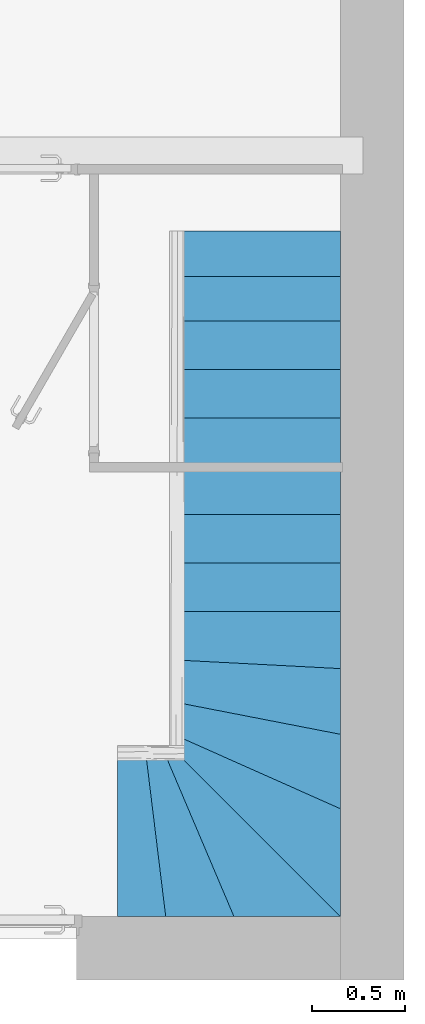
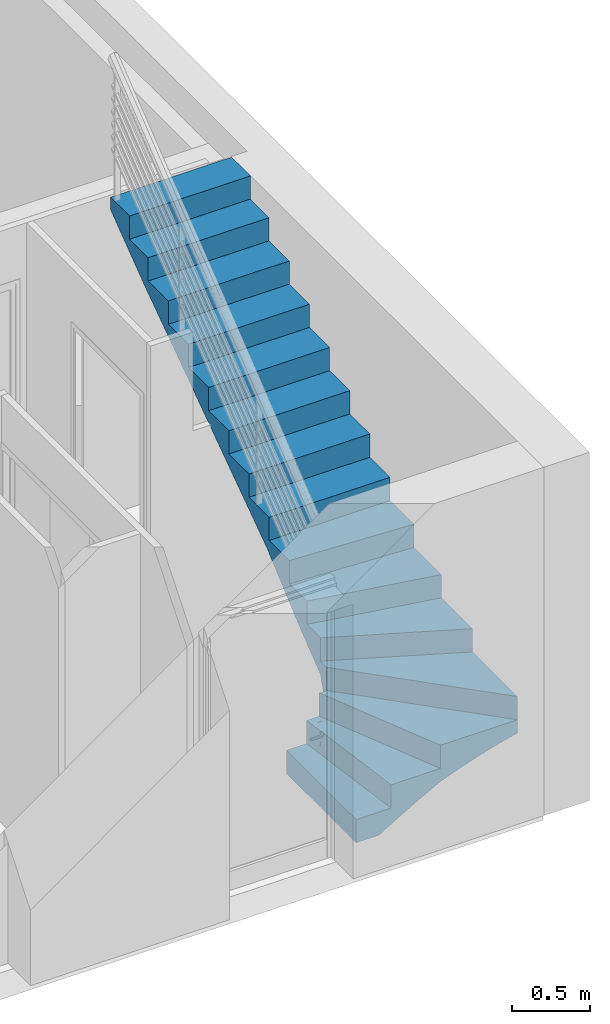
# One storey, part 4 of 13: 1 stair.
"""IFC2X3 building model written with IfcOpenShell, lengths in millimetres."""

import ifcopenshell
import ifcopenshell.guid

model = None  # the IFC model being written
_history = None  # IfcOwnerHistory: only IFC2X3 demands one
_inside = {}  # id of a spatial element -> (the spatial element, [elements in it])
_under = {}  # id of a project, library or spatial element -> (it, [spatial elements below it])
_declared = {}  # id of a project -> (the project, [libraries it declares])
_typed = {}  # id of a type object -> (the type object, [elements of that type])
_made_of = {}  # id of a material, layer set ... -> (it, [elements and type objects made of it])


def new_model(schema):
    """Start an empty IFC model of exactly this schema.

    Asked for "IFC4X3", IfcOpenShell would pick the latest addendum, in which some entities
    have other attributes; the version numbers below select the first issue.
    IFC2X3 requires an IfcOwnerHistory on every rooted entity: one is made here for all.
    """
    global model, _history
    if schema == "IFC4X3":
        model = ifcopenshell.file(schema_version=(4, 3, 0, 0))
    else:
        model = ifcopenshell.file(schema=schema)
    _inside.clear()
    _under.clear()
    _declared.clear()
    _typed.clear()
    _made_of.clear()
    _history = None
    if model.schema == "IFC2X3":
        org = make("IfcOrganization", Name="unknown")
        user = make(
            "IfcPersonAndOrganization",
            ThePerson=make("IfcPerson", FamilyName="unknown"),
            TheOrganization=org,
        )
        app = make(
            "IfcApplication",
            ApplicationDeveloper=org,
            Version="unknown",
            ApplicationFullName="unknown",
            ApplicationIdentifier="unknown",
        )
        _history = make(
            "IfcOwnerHistory",
            OwningUser=user,
            OwningApplication=app,
            ChangeAction="ADDED",
            CreationDate=0,
        )
    return model


def make(cls, **values):
    """One entity of the class cls with the attributes given. An attribute that is None is left unset."""
    return model.create_entity(
        cls, **{name: value for name, value in values.items() if value is not None}
    )


def entity(cls, *values):
    """Any entity or typed value of the class cls, its attributes in the order of the schema. None: left unset."""
    e = model.create_entity(cls)
    for i, value in enumerate(values):
        if value is not None:
            e[i] = value
    return e


def rooted(cls, **values):
    """An entity with a GlobalId (a new one), such as an element, a storey or a relation."""
    return make(cls, GlobalId=ifcopenshell.guid.new(), OwnerHistory=_history, **values)


def si_unit(unit_type, name, prefix=None):
    """IfcSIUnit, for example si_unit("LENGTHUNIT", "METRE", prefix="MILLI")."""
    return make("IfcSIUnit", UnitType=unit_type, Prefix=prefix, Name=name)


def converted_unit(unit_type, name, factor, base, dimensions=None, offset=None):
    """IfcConversionBasedUnit, such as the inch: factor (a typed value) times the base unit."""
    return make(
        "IfcConversionBasedUnit"
        if offset is None
        else "IfcConversionBasedUnitWithOffset",
        ConversionOffset=offset,
        Dimensions=None
        if dimensions is None
        else entity("IfcDimensionalExponents", *dimensions),
        UnitType=unit_type,
        Name=name,
        ConversionFactor=make(
            "IfcMeasureWithUnit", ValueComponent=factor, UnitComponent=base
        ),
    )


def assignment(units):
    """IfcUnitAssignment: the units of a project."""
    return None if units is None else make("IfcUnitAssignment", Units=units)


def point(xyz):
    """IfcCartesianPoint."""
    return None if xyz is None else make("IfcCartesianPoint", Coordinates=xyz)


def direction(xyz):
    """IfcDirection."""
    return None if xyz is None else make("IfcDirection", DirectionRatios=xyz)


def frame(location, z_axis=None, x_axis=None):
    """IfcAxis2Placement3D, a coordinate frame: its origin and axes. An axis left out is left unset."""
    return make(
        "IfcAxis2Placement3D",
        Location=point(location),
        Axis=direction(z_axis),
        RefDirection=direction(x_axis),
    )


def origin():
    """The frame at (0, 0, 0) with its axes left unset."""
    return frame((0.0, 0.0, 0.0))


def origin_with_axes():
    """The frame at (0, 0, 0) with the z axis (0, 0, 1) and the x axis (1, 0, 0) written out."""
    return frame((0.0, 0.0, 0.0), z_axis=(0.0, 0.0, 1.0), x_axis=(1.0, 0.0, 0.0))


def place(relative_to, where):
    """IfcLocalPlacement: puts the frame where relative to a parent placement (None: the world)."""
    return make(
        "IfcLocalPlacement", PlacementRelTo=relative_to, RelativePlacement=where
    )


def context(
    kind, dimensions, precision=None, world=None, true_north=None, identifier=None
):
    """IfcGeometricRepresentationContext, for example the 3D "Model" context."""
    return make(
        "IfcGeometricRepresentationContext",
        ContextIdentifier=identifier,
        ContextType=kind,
        CoordinateSpaceDimension=dimensions,
        Precision=precision,
        WorldCoordinateSystem=world,
        TrueNorth=true_north,
    )


def project(units=None, contexts=None):
    """IfcProject with its units and contexts."""
    return rooted(
        "IfcProject",
        Name="project",
        RepresentationContexts=contexts,
        UnitsInContext=assignment(units),
    )


def spatial(cls, under=None, at=None, **own):
    """A site, building, storey or space (cls), placed at a placement, below another one or the project."""
    s = rooted(cls, ObjectPlacement=at, **own)
    if under is not None:
        _under.setdefault(under.id(), (under, []))[1].append(s)
    return s


def faces_of(points, faces, orient=None, outer=None):
    """IfcFace entities. A face is a list of loops; a loop is a list of indices into points, from 0.

    orient and outer hold one flag for each loop. By default every Orientation is true, the
    first loop of a face is its IfcFaceOuterBound and the others are IfcFaceBound.
    """
    made = []
    for i, loops in enumerate(faces):
        bounds = []
        for j, loop in enumerate(loops):
            is_outer = j == 0 if outer is None else outer[i][j]
            bounds.append(
                make(
                    "IfcFaceOuterBound" if is_outer else "IfcFaceBound",
                    Bound=make("IfcPolyLoop", Polygon=[points[k] for k in loop]),
                    Orientation=True if orient is None else orient[i][j],
                )
            )
        made.append(make("IfcFace", Bounds=bounds))
    return made


def faceted_brep(points, faces, orient=None, outer=None, voids=None):
    """IfcFacetedBrep: a solid bounded by flat faces; with voids (closed shells), ...WithVoids."""
    shared = [point(p) for p in points]
    hull = make("IfcClosedShell", CfsFaces=faces_of(shared, faces, orient, outer))
    if voids is None:
        return make("IfcFacetedBrep", Outer=hull)
    return make(
        "IfcFacetedBrepWithVoids",
        Outer=hull,
        Voids=[
            make(cls, CfsFaces=faces_of(shared, fs, o, b)) for cls, fs, o, b in voids
        ],
    )


def shape(context_of_items, identifier, shape_type, items):
    """IfcShapeRepresentation: the items that make up one representation, for example the "Body"."""
    return make(
        "IfcShapeRepresentation",
        ContextOfItems=context_of_items,
        RepresentationIdentifier=identifier,
        RepresentationType=shape_type,
        Items=items,
    )


def made_of(thing, what):
    """Note that an element or type object is made of a material, layer set ...; save() writes the relation."""
    if what is not None:
        _made_of.setdefault(what.id(), (what, []))[1].append(thing)
    return thing


def element(
    cls,
    number,
    at=None,
    inside=None,
    cuts=None,
    type_object=None,
    material=None,
    context=None,
    identifier="Body",
    shape_type=None,
    held_by="IfcProductDefinitionShape",
    body=None,
    shapes=None,
    **own,
):
    """One element of the class cls, such as IfcWall. Its Tag is "e" and its number.

    at: its placement. inside: the storey or other place that contains it. cuts: it is an
    opening in that element (IfcRelVoidsElement). A single representation is given by context,
    identifier, shape_type and body (its items); several are given by shapes. held_by: the class
    of the entity that holds the representations. save() writes the other relations.
    """
    e = rooted(cls, Tag="e%d" % number, ObjectPlacement=at, **own)
    if body is not None:
        shapes = [shape(context, identifier, shape_type, body)]
    if shapes is not None:
        e.Representation = make(held_by, Representations=shapes)
    if inside is not None:
        _inside.setdefault(inside.id(), (inside, []))[1].append(e)
    if cuts is not None:
        rooted(
            "IfcRelVoidsElement", RelatingBuildingElement=cuts, RelatedOpeningElement=e
        )
    if type_object is not None:
        _typed.setdefault(type_object.id(), (type_object, []))[1].append(e)
    return made_of(e, material)


def aggregate(whole, parts):
    """IfcRelAggregates: a whole, such as a stair, and the parts it consists of."""
    return rooted("IfcRelAggregates", RelatingObject=whole, RelatedObjects=parts)


def save(model, path):
    """Write the relations noted so far, then the file.

    IfcRelAggregates (storeys below a building ...), IfcRelContainedInSpatialStructure (elements
    in a storey), IfcRelDefinesByType, IfcRelAssociatesMaterial and IfcRelDeclares: one each for
    every whole, place, type object, material and project.
    """
    for whole, parts in _under.values():
        aggregate(whole, parts)
    for where, things in _inside.values():
        rooted(
            "IfcRelContainedInSpatialStructure",
            RelatedElements=things,
            RelatingStructure=where,
        )
    for kind, things in _typed.values():
        rooted("IfcRelDefinesByType", RelatedObjects=things, RelatingType=kind)
    for what, things in _made_of.values():
        rooted("IfcRelAssociatesMaterial", RelatedObjects=things, RelatingMaterial=what)
    for by, libraries in _declared.values():
        rooted("IfcRelDeclares", RelatingContext=by, RelatedDefinitions=libraries)
    model.write(path)


model = new_model("IFC2X3")

# Units and contexts
model_context = context("Model", 3, precision=1e-05, world=origin(), true_north=direction((0.0, 1.0, 0.0)))
ifc_project = project(units=[si_unit("LENGTHUNIT", "METRE", prefix="MILLI"), si_unit("AREAUNIT", "SQUARE_METRE"), si_unit("VOLUMEUNIT", "CUBIC_METRE"), converted_unit("PLANEANGLEUNIT", "DEGREE", entity("IfcPlaneAngleMeasure", 0.01745), si_unit("PLANEANGLEUNIT", "RADIAN"), dimensions=[0, 0, 0, 0, 0, 0, 0]), si_unit("SOLIDANGLEUNIT", "STERADIAN"), si_unit("MASSUNIT", "GRAM"), si_unit("TIMEUNIT", "SECOND"), si_unit("THERMODYNAMICTEMPERATUREUNIT", "DEGREE_CELSIUS"), si_unit("LUMINOUSINTENSITYUNIT", "LUMEN")], contexts=[model_context])

# Site, building, storey
placement = place(None, origin_with_axes())
site_placement = place(placement, frame((11636.08881703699, 2815.7442167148, 4.768371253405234e-06), z_axis=(0.0, 0.0, 1.0), x_axis=(1.0, 0.0, 0.0)))
site = spatial("IfcSite", under=ifc_project, at=site_placement, Name="Surface", CompositionType="ELEMENT")
building_placement = place(placement, origin_with_axes())
building = spatial("IfcBuilding", under=site, at=building_placement, Name="Default Building", CompositionType="ELEMENT")
storey_placement = place(building_placement, origin_with_axes())
storey = spatial("IfcBuildingStorey", under=building, at=storey_placement, Name="Rez de chaussée", CompositionType="ELEMENT", Elevation=0.0)

# Stair
stair_placement = place(storey_placement, frame((11636.08881703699, 2815.7442167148, 4.768371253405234e-06), z_axis=(0.0, 0.0, 1.0), x_axis=(1.0, 0.0, 0.0)))
element("IfcStair", 1, at=stair_placement, inside=storey, Name="IfcStair - Escalier:Monobloc", context=model_context, shape_type="Brep", body=[
    faceted_brep([(523.911169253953, 1208.089584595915, 2740.000004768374), (1423.91120501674, 1208.089584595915, 2639.755601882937), (523.911169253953, 1208.089584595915, 2639.755601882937), (1423.91120501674, 1208.089584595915, 2740.000004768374), (1423.91120501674, 964.2558043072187, 2740.000004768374), (523.911169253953, 964.2558043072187, 2557.33334541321), (1423.91120501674, 964.2558043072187, 2557.33334541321), (523.911169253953, 964.2558043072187, 2740.000004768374), (1423.91120501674, 464.2558043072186, 2374.666686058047), (523.911169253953, 464.2558043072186, 2192.000026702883), (1423.91120501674, 464.2558043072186, 2192.000026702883), (523.911169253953, 464.2558043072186, 2374.666686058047), (1423.91120501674, 724.2557947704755, 2374.666686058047), (523.911169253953, 724.2557947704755, 2374.666686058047), (1423.91120501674, 204.2557542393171, 2192.000026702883), (523.911169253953, 204.2557542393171, 2009.333307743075), (1423.91120501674, 204.2557542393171, 2009.333307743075), (523.911169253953, 204.2557542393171, 2192.000026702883), (1423.91120501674, -55.74423622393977, 2009.333307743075), (523.911169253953, -55.74423622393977, 1826.666678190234), (1423.91120501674, -55.74423622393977, 1826.666678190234), (523.911169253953, -55.74423622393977, 2009.333307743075), (1423.91120501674, -315.7442266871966, 1826.666678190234), (523.911169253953, -315.7442266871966, 1643.999989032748), (1423.91120501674, -315.7442266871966, 1643.999989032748), (523.911169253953, -315.7442266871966, 1826.666678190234), (1423.91120501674, -575.7442171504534, 1643.999989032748), (523.911169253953, -575.7442171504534, 1461.333329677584), (1423.91120501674, -575.7442171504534, 1461.333329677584), (523.911169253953, -575.7442171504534, 1643.999989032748), (1423.91120501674, -835.7442225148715, 1461.333329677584), (523.911169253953, -835.7442225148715, 1278.66667032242), (1423.91120501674, -835.7442225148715, 1278.66667032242), (523.911169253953, -835.7442225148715, 1461.333329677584), (1423.91120501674, -1142.911201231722, 1278.66667032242), (523.911169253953, -1095.744227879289, 1096.000010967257), (1423.91120501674, -1142.911201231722, 1096.000010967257), (523.911169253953, -1095.744227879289, 1278.66667032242), (1423.91120501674, -1496.086126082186, 1096.000010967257), (523.911169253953, -1321.143811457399, 913.3333218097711), (1423.91120501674, -1496.086126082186, 913.3333218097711), (523.911169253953, -1321.143811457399, 1096.000010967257), (1423.91120501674, -1896.450048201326, 913.3333218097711), (523.911169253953, -1495.744233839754, 730.6666922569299), (1423.91120501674, -1896.450048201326, 730.6666922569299), (523.911169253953, -1495.744233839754, 913.3333218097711), (523.911169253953, -1575.744217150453, 409.318144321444), (523.911169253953, -1537.743633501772, 493.88074398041), (523.911169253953, -1555.384939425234, 450.9907317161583), (523.911169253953, -1522.230988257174, 537.5931215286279), (523.911169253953, -1575.744217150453, 547.9999732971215), (523.911169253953, -1508.358841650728, 581.860001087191), (523.911169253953, -1495.744233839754, 626.4702630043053), (523.911169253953, -1575.744217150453, 730.6666922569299), (523.911169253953, -1419.459527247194, 683.7156367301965), (523.911169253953, -1344.161873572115, 742.2222447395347), (523.911169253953, -1269.766753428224, 801.8454861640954), (523.911169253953, -1196.170931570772, 862.4364686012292), (523.911169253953, -1123.229538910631, 923.865730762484), (523.911169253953, -1050.855701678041, 985.9431338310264), (523.911169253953, -978.9127464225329, 1048.50995063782), (523.911169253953, -907.2586054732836, 1111.405189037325), (523.911169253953, -835.7442225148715, 1174.470270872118), (523.911169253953, -835.7442225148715, 1180.896441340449), (523.911169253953, 724.2557947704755, 2276.896471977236), (523.911169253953, 724.2557947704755, 2274.42228317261), (523.911169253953, 724.2557947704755, 2557.33334541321), (1423.91120501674, -2475.74425291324, 730.6666922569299), (1423.91120501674, -2475.74425291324, 547.9999732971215), (1423.91120501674, 724.2557947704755, 2274.42228317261), (1423.91120501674, 724.2557947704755, 2557.33334541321), (1423.91120501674, -2401.922827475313, 461.6191935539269), (1423.91120501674, -2475.74425291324, 443.5055804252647), (1423.91120501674, -2328.427558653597, 481.0143661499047), (1423.91120501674, -2255.299335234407, 501.7509412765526), (1423.91120501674, -2182.578926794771, 523.8756489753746), (1423.91120501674, -2110.304718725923, 547.4170398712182), (1423.91120501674, -2038.509493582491, 572.3813724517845), (1423.91120501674, -1967.2180468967, 598.7496924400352), (1423.91120501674, -1896.450048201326, 626.4702630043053), (1423.91120501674, -1776.193624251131, 682.6022815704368), (1423.91120501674, -1656.711941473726, 740.3197836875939), (1423.91120501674, -1537.955468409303, 799.4794201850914), (1423.91120501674, -1419.852262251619, 859.9201393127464), (1423.91120501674, -1302.291041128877, 921.474213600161), (1423.91120501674, -1185.218876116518, 983.9200925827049), (1423.91120501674, -1068.519865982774, 1047.048712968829), (1423.91120501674, -952.0692284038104, 1110.641713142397), (1423.91120501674, -835.7442225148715, 1174.470270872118), (1423.91120501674, -835.7442225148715, 1180.896441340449), (1423.91120501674, 724.2557947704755, 2276.896471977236), (850.7809028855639, -2475.74425291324, 547.9999732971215), (468.7535674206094, -1575.744217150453, 365.3333139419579), (850.7809028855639, -2475.74425291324, 365.3333139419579), (468.7535674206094, -1575.744217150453, 547.9999732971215), (483.9111775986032, -2475.74425291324, 365.3333139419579), (373.9111930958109, -1575.744217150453, 182.6666545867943), (483.9111775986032, -2475.74425291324, 182.6666545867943), (373.9111930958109, -1575.744217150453, 365.3333139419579), (359.4889254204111, -1575.744217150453, 105.9032630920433), (395.0201184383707, -1575.744217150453, 158.2517576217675), (324.6192545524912, -1575.744217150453, 53.11440944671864), (290.2406365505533, -1575.744217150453, -4.76836925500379e-06), (223.911157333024, -1575.744217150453, -4.76836925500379e-06), (223.911157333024, -1575.744217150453, 182.6666545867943), (431.3820809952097, -1575.744217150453, 210.0353193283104), (468.7535674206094, -1575.744217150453, 261.1368846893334), (503.3787698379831, -1575.744217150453, 360.7431602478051), (485.1870150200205, -1575.744217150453, 311.2373304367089), (223.911157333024, -2475.74425291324, 182.6666545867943), (223.911157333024, -2475.74425291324, -4.76836925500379e-06), (1350.90266772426, -2475.74425291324, 425.2740693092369), (1278.216114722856, -2475.74425291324, 405.798013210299), (1205.889067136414, -2475.74425291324, 385.0263905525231), (1133.958301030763, -2475.74425291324, 362.9218292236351), (1062.457165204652, -2475.74425291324, 339.4648981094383), (991.4131373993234, -2475.74425291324, 314.6580410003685), (920.8454475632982, -2475.74425291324, 288.527960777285), (850.7809028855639, -2475.74425291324, 261.1368846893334), (784.3278073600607, -2475.74425291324, 225.8821678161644), (718.3315143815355, -2475.74425291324, 189.815278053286), (652.7485758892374, -2475.74425291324, 153.0016613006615), (587.5435382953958, -2475.74425291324, 115.5223798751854), (522.6734490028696, -2475.74425291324, 77.46541023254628), (458.0887169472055, -2475.74425291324, 38.92504692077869), (393.7342674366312, -2475.74425291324, -4.76836925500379e-06), (431.9291622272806, -2216.180806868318, 49.84330654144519), (508.0884010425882, -2244.30955004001, 99.97772693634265), (823.5481647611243, -2411.587959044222, 261.1368846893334), (796.3154264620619, -2347.431545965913, 261.1368846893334), (769.082690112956, -2283.275252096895, 261.1368846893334), (544.0649301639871, -2032.085901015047, 169.2796897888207), (436.7976696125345, -2010.347371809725, 84.60747718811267), (448.9080519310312, -1825.702791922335, 137.6180601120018), (497.082761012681, -1807.313447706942, 192.3773241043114), (359.2362613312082, -2175.744181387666, -4.76836925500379e-06), (347.7369458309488, -2075.744276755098, -4.76836925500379e-06), (625.071874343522, -2259.900456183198, 176.1199188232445), (741.8499500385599, -2219.118958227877, 261.1368846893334), (596.0750789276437, -2014.510637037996, 215.4763889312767), (550.836286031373, -1769.11902975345, 261.1368846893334), (523.4753698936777, -1704.660778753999, 261.1368846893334), (578.1971872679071, -1833.577280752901, 261.1368846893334), (336.2376601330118, -1975.74425291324, -4.76836925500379e-06), (324.7383744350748, -1875.744229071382, -4.76836925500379e-06), (496.1144835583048, -1640.202527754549, 261.1368846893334), (714.617213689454, -2154.962664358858, 261.1368846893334), (687.3844773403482, -2090.80637048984, 261.1368846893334), (660.1517409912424, -2026.650076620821, 261.1368846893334), (632.9190046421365, -1962.493782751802, 261.1368846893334), (605.5580885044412, -1898.035531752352, 261.1368846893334), (370.7355768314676, -2275.744205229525, -4.76836925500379e-06), (382.2349221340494, -2375.744229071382, -4.76836925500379e-06), (301.7398626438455, -1675.744181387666, -4.76836925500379e-06), (313.2391483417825, -1775.744205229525, -4.76836925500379e-06), (961.3102138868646, -1344.860082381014, 835.3350114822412), (1027.762135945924, -1469.341164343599, 770.4949331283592), (970.0925559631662, -974.080299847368, 1080.788667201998), (878.3673406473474, -1233.467643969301, 895.5059301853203), (964.736512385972, -1158.626561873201, 956.8606269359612), (888.349479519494, -1056.863611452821, 1018.575425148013), (986.8632615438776, -1567.143624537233, 703.989500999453), (973.9111871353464, -835.7442225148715, 1174.470270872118), (1149.715474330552, -1774.370198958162, 626.4702630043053), (1071.489936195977, -1739.542012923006, 626.4702630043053), (993.2643980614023, -1704.71370767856, 626.4702630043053), (915.0388599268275, -1669.885521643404, 626.4702630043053), (836.8133245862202, -1635.057216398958, 626.4702630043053), (758.5877911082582, -1600.228970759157, 626.4702630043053), (602.136722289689, -1530.572479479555, 626.4702630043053), (680.3622604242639, -1565.400725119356, 626.4702630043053), (921.5000257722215, -2023.484831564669, 417.0235943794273), (986.3137365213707, -2000.106697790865, 456.2687230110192), (1075.565299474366, -2106.118803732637, 448.8770914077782), (1169.600626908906, -2107.188111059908, 480.7348203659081), (994.664794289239, -1941.611295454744, 486.8300509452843), (871.3516765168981, -2249.815827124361, 317.7469921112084), (742.5532997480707, -2024.714952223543, 317.3683834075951), (840.886606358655, -2105.137949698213, 345.7567644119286), (983.2803667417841, -2222.718959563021, 373.8477182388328), (909.072822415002, -2092.659121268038, 384.0793919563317), (1058.205163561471, -2194.0087134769, 412.0757532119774), (703.0007527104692, -1859.130388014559, 363.3024644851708), (807.5818777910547, -1982.554918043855, 374.1433572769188), (819.0700928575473, -1906.348472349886, 417.411918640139), (631.599715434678, -1732.517963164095, 382.5508308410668), (1213.700226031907, -2049.174195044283, 516.11613750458), (1035.37388750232, -1895.975952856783, 525.688583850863), (1134.774497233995, -1893.847709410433, 560.1255846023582), (1005.460327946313, -1775.989180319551, 583.1426334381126), (892.4616784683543, -1794.189577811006, 524.6738743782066), (1105.884483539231, -2332.980042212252, 388.4113979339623), (973.4664917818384, -2343.798762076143, 337.1911001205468), (688.6145830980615, -1592.586165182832, 592.7993011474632), (635.0571275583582, -1583.493536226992, 560.7853484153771), (698.178535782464, -1659.130340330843, 518.0104327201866), (774.8909988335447, -1661.671524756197, 568.9538669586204), (880.5487700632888, -1908.736234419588, 450.4666280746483), (811.3142340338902, -1794.064169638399, 480.7245087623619), (653.1140268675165, -1661.005144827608, 474.7705411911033), (624.5059580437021, -1670.998578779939, 432.7120137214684), (745.3329772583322, -1795.296436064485, 435.7572746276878), (1236.610344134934, -2274.54865526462, 446.5338540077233), (557.8071684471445, -1713.419323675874, 306.5024566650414), (623.0038613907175, -1851.179843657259, 297.9381036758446), (1299.653878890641, -2161.792164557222, 499.7586560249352), (1358.587792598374, -1867.366200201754, 626.4702630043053), (1231.365850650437, -1883.52025102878, 591.498787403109), (1275.832882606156, -1980.98552774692, 560.2697086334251), (1227.940997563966, -1809.198504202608, 626.4702630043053), (1293.264409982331, -1838.282352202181, 626.4702630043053), (623.9070952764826, -1788.902168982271, 333.6179208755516)], [[[0, 1, 2]], [[0, 3, 1]], [[4, 5, 6]], [[4, 7, 5]], [[8, 9, 10]], [[8, 11, 9]], [[12, 11, 8]], [[12, 13, 11]], [[14, 15, 16]], [[14, 17, 15]], [[10, 17, 14]], [[10, 9, 17]], [[18, 19, 20]], [[18, 21, 19]], [[16, 21, 18]], [[16, 15, 21]], [[22, 23, 24]], [[22, 25, 23]], [[20, 25, 22]], [[20, 19, 25]], [[26, 27, 28]], [[26, 29, 27]], [[24, 29, 26]], [[24, 23, 29]], [[30, 31, 32]], [[30, 33, 31]], [[28, 33, 30]], [[28, 27, 33]], [[34, 35, 36]], [[34, 37, 35]], [[32, 37, 34]], [[32, 31, 37]], [[38, 39, 40]], [[38, 41, 39]], [[36, 41, 38]], [[36, 35, 41]], [[42, 43, 44]], [[42, 45, 43]], [[39, 42, 40]], [[39, 45, 42]], [[46, 47, 48]], [[46, 49, 47]], [[50, 49, 46]], [[50, 51, 49]], [[50, 52, 51]], [[53, 52, 50]], [[53, 54, 52]], [[43, 54, 53]], [[43, 55, 54]], [[43, 56, 55]], [[43, 57, 56]], [[45, 57, 43]], [[39, 57, 45]], [[39, 58, 57]], [[39, 59, 58]], [[39, 60, 59]], [[41, 60, 39]], [[35, 60, 41]], [[35, 61, 60]], [[35, 62, 61]], [[35, 63, 62]], [[37, 63, 35]], [[31, 63, 37]], [[27, 63, 33]], [[23, 27, 29]], [[23, 63, 27]], [[19, 23, 25]], [[19, 63, 23]], [[15, 19, 21]], [[15, 63, 19]], [[9, 15, 17]], [[9, 63, 15]], [[9, 64, 63]], [[64, 9, 11]], [[13, 64, 11]], [[5, 65, 66]], [[5, 2, 65]], [[7, 2, 5]], [[2, 7, 0]], [[67, 50, 68]], [[67, 53, 50]], [[69, 6, 70]], [[1, 6, 69]], [[1, 4, 6]], [[4, 1, 3]], [[71, 67, 72]], [[73, 67, 71]], [[74, 67, 73]], [[75, 67, 74]], [[76, 67, 75]], [[77, 67, 76]], [[78, 67, 77]], [[78, 44, 67]], [[79, 44, 78]], [[80, 42, 79]], [[81, 42, 80]], [[82, 42, 81]], [[82, 40, 42]], [[83, 40, 82]], [[83, 38, 40]], [[84, 38, 83]], [[85, 38, 84]], [[85, 36, 38]], [[86, 36, 85]], [[86, 34, 36]], [[87, 34, 86]], [[88, 34, 87]], [[89, 34, 88]], [[89, 32, 34]], [[89, 28, 30]], [[28, 24, 26]], [[89, 24, 28]], [[24, 20, 22]], [[89, 20, 24]], [[20, 16, 18]], [[89, 16, 20]], [[16, 10, 14]], [[89, 10, 16]], [[90, 10, 89]], [[90, 8, 10]], [[8, 90, 12]], [[43, 67, 44]], [[43, 53, 67]], [[91, 92, 93]], [[91, 94, 92]], [[95, 96, 97]], [[95, 98, 96]], [[99, 96, 100]], [[101, 96, 99]], [[102, 96, 101]], [[103, 96, 102]], [[96, 103, 104]], [[105, 92, 106]], [[100, 92, 105]], [[96, 92, 100]], [[92, 96, 98]], [[107, 50, 46]], [[108, 50, 107]], [[106, 50, 108]], [[92, 50, 106]], [[50, 92, 94]], [[109, 103, 110]], [[109, 104, 103]], [[68, 111, 72]], [[68, 112, 111]], [[68, 113, 112]], [[68, 114, 113]], [[68, 115, 114]], [[68, 116, 115]], [[91, 116, 68]], [[91, 117, 116]], [[93, 117, 91]], [[93, 118, 117]], [[93, 119, 118]], [[93, 120, 119]], [[93, 121, 120]], [[93, 122, 121]], [[95, 122, 93]], [[95, 123, 122]], [[97, 123, 95]], [[97, 124, 123]], [[97, 125, 124]], [[109, 125, 97]], [[125, 109, 110]], [[70, 13, 12]], [[70, 66, 13]], [[65, 90, 64]], [[65, 69, 90]], [[65, 1, 69]], [[65, 2, 1]], [[126, 127, 123]], [[119, 128, 118]], [[119, 129, 128]], [[129, 119, 130]], [[131, 132, 133]], [[134, 131, 133]], [[126, 135, 136]], [[130, 119, 137]], [[137, 138, 130]], [[119, 120, 137]], [[131, 127, 132]], [[131, 134, 139]], [[139, 138, 137]], [[137, 120, 121]], [[137, 121, 122]], [[140, 134, 141]], [[140, 142, 134]], [[143, 144, 132]], [[127, 131, 137]], [[145, 105, 106]], [[105, 145, 141]], [[126, 123, 124]], [[100, 105, 134]], [[137, 122, 127]], [[134, 142, 139]], [[139, 146, 138]], [[139, 147, 146]], [[139, 148, 147]], [[139, 149, 148]], [[139, 150, 149]], [[150, 139, 142]], [[127, 122, 123]], [[139, 137, 131]], [[151, 135, 126]], [[99, 133, 132]], [[126, 124, 152]], [[132, 126, 143]], [[134, 105, 141]], [[124, 125, 152]], [[143, 126, 136]], [[152, 151, 126]], [[127, 126, 132]], [[132, 144, 101]], [[100, 133, 99]], [[134, 133, 100]], [[99, 132, 101]], [[153, 102, 101]], [[101, 144, 154]], [[101, 154, 153]], [[110, 152, 125]], [[110, 151, 152]], [[110, 135, 151]], [[110, 136, 135]], [[110, 143, 136]], [[110, 144, 143]], [[110, 154, 144]], [[110, 153, 154]], [[110, 102, 153]], [[102, 110, 103]], [[3, 7, 4]], [[3, 0, 7]], [[6, 66, 70]], [[6, 5, 66]], [[91, 50, 94]], [[91, 68, 50]], [[95, 92, 98]], [[95, 93, 92]], [[97, 104, 109]], [[97, 96, 104]], [[63, 90, 89]], [[63, 64, 90]], [[155, 156, 56]], [[86, 157, 87]], [[83, 158, 84]], [[85, 159, 160]], [[55, 156, 161]], [[85, 160, 86]], [[88, 87, 162]], [[61, 162, 157]], [[156, 155, 82]], [[57, 158, 155]], [[161, 156, 81]], [[84, 159, 85]], [[155, 158, 83]], [[59, 160, 159]], [[87, 157, 162]], [[159, 58, 59]], [[60, 157, 160]], [[60, 61, 157]], [[58, 159, 158]], [[55, 56, 156]], [[155, 56, 57]], [[161, 81, 80]], [[82, 155, 83]], [[59, 60, 160]], [[81, 156, 82]], [[84, 158, 159]], [[162, 61, 62]], [[79, 163, 80]], [[57, 58, 158]], [[55, 161, 54]], [[163, 161, 80]], [[164, 161, 163]], [[165, 161, 164]], [[166, 161, 165]], [[167, 161, 166]], [[161, 167, 168]], [[54, 161, 168]], [[54, 169, 52]], [[54, 170, 169]], [[170, 54, 168]], [[86, 160, 157]], [[63, 88, 62]], [[88, 63, 89]], [[171, 172, 173]], [[174, 172, 175]], [[176, 177, 178]], [[179, 178, 180]], [[178, 179, 176]], [[181, 180, 171]], [[177, 182, 183]], [[184, 182, 185]], [[186, 187, 188]], [[189, 187, 190]], [[191, 192, 179]], [[176, 179, 192]], [[178, 183, 180]], [[51, 193, 194]], [[195, 194, 196]], [[51, 169, 193]], [[184, 183, 182]], [[171, 183, 184]], [[172, 197, 175]], [[198, 175, 197]], [[175, 198, 190]], [[195, 198, 199]], [[185, 200, 201]], [[199, 200, 48]], [[202, 181, 173]], [[203, 204, 140]], [[71, 202, 73]], [[201, 198, 197]], [[201, 197, 184]], [[75, 205, 76]], [[198, 195, 190]], [[171, 197, 172]], [[206, 78, 207]], [[195, 49, 194]], [[206, 79, 78]], [[208, 207, 78]], [[185, 201, 184]], [[190, 196, 189]], [[189, 207, 188]], [[174, 202, 173]], [[166, 189, 196]], [[113, 114, 191]], [[149, 204, 177]], [[189, 188, 187]], [[174, 186, 205]], [[111, 71, 72]], [[196, 194, 193]], [[73, 205, 74]], [[205, 186, 76]], [[202, 205, 73]], [[174, 175, 186]], [[49, 195, 47]], [[200, 199, 201]], [[175, 190, 187]], [[196, 167, 166]], [[173, 181, 171]], [[199, 47, 195]], [[52, 169, 51]], [[193, 168, 167]], [[193, 170, 168]], [[170, 193, 169]], [[180, 181, 179]], [[209, 207, 163]], [[210, 207, 209]], [[207, 210, 206]], [[167, 196, 193]], [[163, 207, 189]], [[211, 185, 182]], [[189, 164, 163]], [[189, 165, 164]], [[165, 189, 166]], [[76, 208, 77]], [[46, 185, 107]], [[51, 194, 49]], [[107, 203, 108]], [[199, 48, 47]], [[196, 190, 195]], [[113, 191, 112]], [[200, 185, 46]], [[112, 191, 202]], [[114, 192, 191]], [[192, 114, 115]], [[112, 202, 111]], [[192, 116, 117]], [[75, 74, 205]], [[211, 177, 204]], [[115, 116, 192]], [[129, 176, 117]], [[174, 173, 172]], [[208, 76, 186]], [[186, 188, 208]], [[171, 180, 183]], [[117, 128, 129]], [[117, 118, 128]], [[176, 138, 146]], [[176, 130, 138]], [[130, 176, 129]], [[176, 146, 177]], [[208, 78, 77]], [[147, 177, 146]], [[148, 177, 147]], [[177, 148, 149]], [[199, 198, 201]], [[107, 211, 203]], [[117, 176, 192]], [[150, 204, 149]], [[142, 204, 150]], [[204, 142, 140]], [[48, 200, 46]], [[107, 185, 211]], [[202, 191, 181]], [[184, 197, 171]], [[177, 211, 182]], [[177, 183, 178]], [[141, 203, 140]], [[141, 145, 203]], [[71, 111, 202]], [[207, 208, 188]], [[203, 211, 204]], [[175, 187, 186]], [[202, 174, 205]], [[181, 191, 179]], [[108, 145, 106]], [[108, 203, 145]]]),
])

save(model, "model.ifc")
